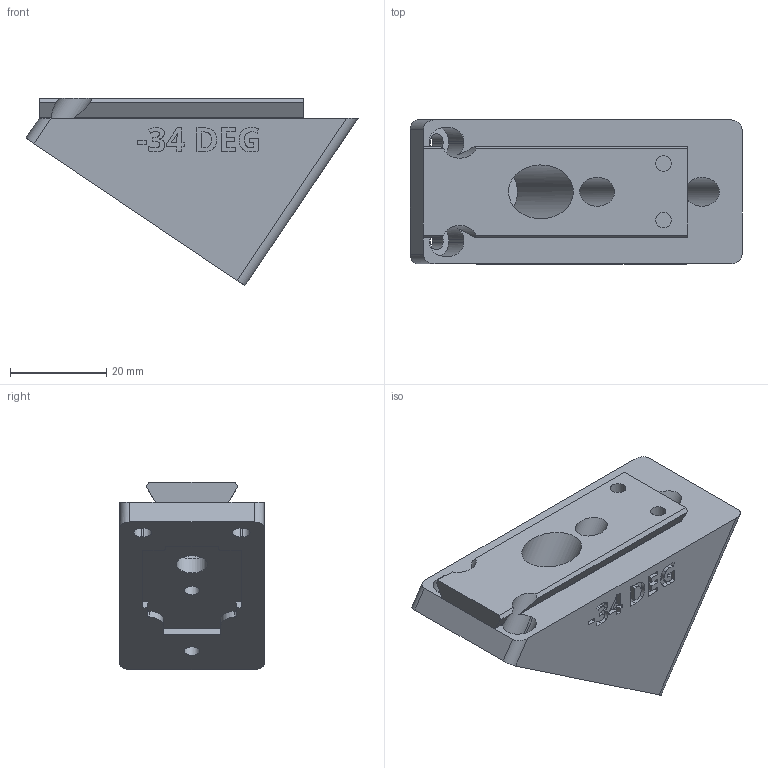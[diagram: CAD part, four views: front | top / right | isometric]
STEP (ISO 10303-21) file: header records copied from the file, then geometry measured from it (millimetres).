
FILE_DESCRIPTION(/* description */ ('STEP AP242 Edition 2','CAx-IF Rec.Pracs.---Representation and Presentation of Product Manufacturing Information (PMI)---4.0---2014-10-13','CAx-IF Rec.Pracs.---3D Tessellated Geometry---0.4---2014-09-14','2;1','CAx-IF Rec.Pracs.---User Defined Attributes---1.5---2016-08-15'),/* implementation_level */ '2;1');
FILE_NAME(/* name */ 'Camera Wedges - CAMERA MOUNTING WEDGE, NEG, -34 DEG',/* time_stamp */ '2026-07-08T20:36:46Z',/* author */ (''),/* organization */ (''),/* preprocessor_version */ 'ST-DEVELOPER v20',/* originating_system */ 'ONSHAPE BY PTC INC, 1.217',/* authorisation */ ' ');
FILE_SCHEMA (('AP242_MANAGED_MODEL_BASED_3D_ENGINEERING_MIM_LF { 1 0 10303 442 3 1 4 }'));
Length unit declared in the file: metre
Products named in the file (1): CAMERA MOUNTING WEDGE, NEG, -34 DEG
Bounding box: 69.14 x 30 x 39 mm (x, y, z)
Volume: 37763.1 mm3; surface area: 10727.3 mm2
Topology: 1 solids, 1 shells, 277 faces, 760 edges, 506 vertices
Faces by surface type: plane 165, bspline 64, cylinder 48
Full cylindrical faces by diameter (mm): 3.2 x4, 6 x2, 6.4 x1, 11.2 x1
Entity records: 8956 total; most frequent: CARTESIAN_POINT 2238, ORIENTED_EDGE 1502, DIRECTION 1160, EDGE_CURVE 751, LINE 514, VECTOR 514, VERTEX_POINT 505, AXIS2_PLACEMENT_3D 323
